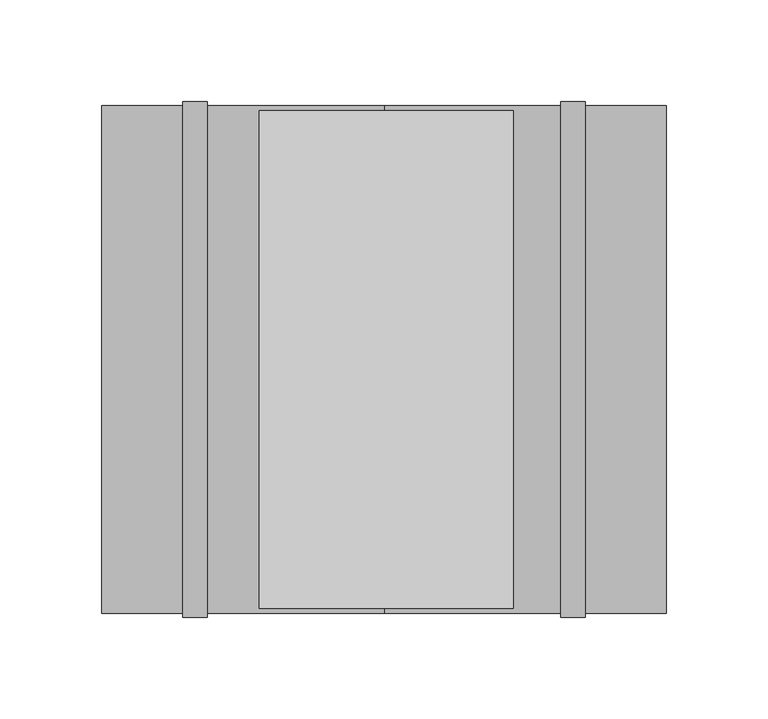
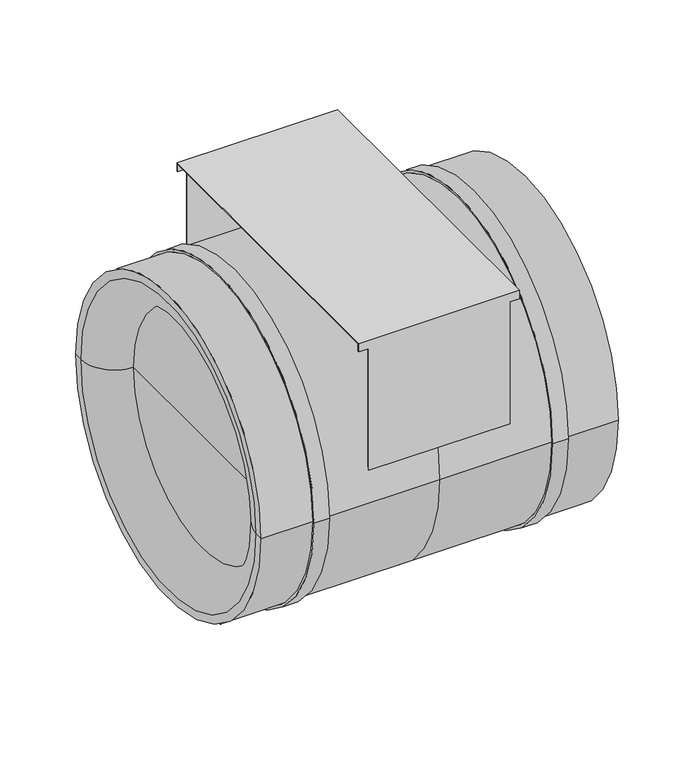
"""IFC4 building model written with IfcOpenShell, lengths in millimetres: unitary equipment geometry, VE-Wentylator-ParaForma-Harmann-JETTEC-Nawiewny : 250/2400F."""

from ifc_helpers import new_model, si_unit, point, frame, frame_2d, origin, place, context, project, spatial, polyline, circle_curve, ellipse_curve, trimmed, segment, composite_curve, outline, extrude, source, transform, mapped, element, save
from ifc_brep_helpers import plane_surface, cylinder_surface, revolved_surface, advanced_brep


def unitary_equipment_d3777f55(model_context):
    return source(origin(), model_context, "Body", "SolidModel", [
        extrude(outline(composite_curve([segment(polyline([(-45.5, -47.7), (-45.5, 47.7)]), True, "CONTINUOUS"), segment(trimmed(circle_curve(frame_2d((-40.5, 47.7)), 5.0), [point((-45.5, 47.7))], [point((-40.5, 52.7))], False, "CARTESIAN"), True, "CONTINUOUS"), segment(polyline([(-40.5, 52.7), (40.5, 52.7)]), True, "CONTINUOUS"), segment(trimmed(circle_curve(frame_2d((40.5, 47.7)), 5.0), [point((40.5, 52.7))], [point((45.5, 47.7))], False, "CARTESIAN"), True, "CONTINUOUS"), segment(polyline([(45.5, 47.7), (45.5, -47.7)]), True, "CONTINUOUS"), segment(trimmed(circle_curve(frame_2d((40.5, -47.7)), 5.0), [point((45.5, -47.7))], [point((40.5, -52.7))], False, "CARTESIAN"), True, "CONTINUOUS"), segment(polyline([(40.5, -52.7), (-40.5, -52.7)]), True, "CONTINUOUS"), segment(trimmed(circle_curve(frame_2d((-40.5, -47.7)), 5.0), [point((-40.5, -52.7))], [point((-45.5, -47.7))], False, "CARTESIAN"), True, "CONTINUOUS")], self_intersect=False)), frame((0.0, -55.0, 0.0), z_axis=(0.0, 1.0, 0.0), x_axis=(0.0, 0.0, 1.0)), (0.0, 0.0, 1.0), 45.0),
        advanced_brep(
        [(63.5, 122.5, 125.0), (63.5, 122.5, 131.8), (63.5, -122.5, 131.8), (63.5, -122.5, 125.0), (63.5, -121.7, 125.0), (63.5, -121.7, 131.0), (63.5, 121.7, 131.0), (63.5, 121.7, 125.0), (56.0, 121.7, 125.0), (56.0, 122.5, 125.0), (-61.5, 121.7, 131.0), (-61.5, 121.7, 125.0), (-54.0, 121.7, 125.0), (-54.0, 121.7, 28.5326129), (56.0, 121.7, 28.5326129), (-61.5, -121.7, 131.0), (56.0, -121.7, 125.0), (56.0, -121.7, 28.5326129), (-54.0, -121.7, 28.5326129), (-54.0, -121.7, 125.0), (-61.5, -121.7, 125.0), (56.0, -122.5, 125.0), (-61.5, -122.5, 131.8), (-61.5, -122.5, 125.0), (-54.0, -122.5, 125.0), (-54.0, -122.5, 24.8746859), (56.0, -122.5, 24.8746859), (-61.5, 122.5, 131.8), (56.0, 122.5, 24.8746859), (-54.0, 122.5, 24.8746859), (-54.0, 122.5, 125.0), (-61.5, 122.5, 125.0)],
        [
            (0, 1),
            (1, 2),
            (2, 3),
            (3, 4),
            (4, 5),
            (5, 6),
            (6, 7),
            (7, 0),
            (7, 8),
            (8, 9),
            (9, 0),
            (6, 10),
            (10, 11),
            (11, 12),
            (12, 13),
            (13, 14),
            (14, 8),
            (5, 15),
            (15, 10),
            (4, 16),
            (16, 17),
            (17, 18),
            (18, 19),
            (19, 20),
            (20, 15),
            (3, 21),
            (21, 16),
            (2, 22),
            (22, 23),
            (23, 24),
            (24, 25),
            (25, 26),
            (26, 21),
            (1, 27),
            (27, 22),
            (9, 28),
            (28, 29),
            (29, 30),
            (30, 31),
            (31, 27),
            (29, 13, circle_curve(frame((-54.0, 0.0, 0.0), z_axis=(1.0, 0.0, 0.0), x_axis=(0.0, 1.0, 0.0)), 125.0)),
            (12, 30),
            (18, 25, circle_curve(frame((-54.0, 0.0, 0.0), z_axis=(1.0, 0.0, 0.0), x_axis=(0.0, 1.0, 0.0)), 125.0)),
            (24, 19),
            (14, 28, circle_curve(frame((56.0, 0.0, 0.0), z_axis=(-1.0, 0.0, 0.0), x_axis=(0.0, 1.0, 0.0)), 125.0)),
            (26, 17, circle_curve(frame((56.0, 0.0, 0.0), z_axis=(-1.0, 0.0, 0.0), x_axis=(0.0, 1.0, 0.0)), 125.0)),
            (31, 11),
            (20, 23),
        ],
        [
            plane_surface(frame((63.5, 0.0, 0.0), z_axis=(1.0, 0.0, 0.0), x_axis=(0.0, 0.0, 1.0))),
            plane_surface(frame((56.0, 122.5, 125.0), z_axis=(0.0, 0.0, -1.0), x_axis=(1.0, 0.0, 0.0))),
            plane_surface(frame((56.0, 121.7, 125.0), z_axis=(0.0, -1.0, 0.0), x_axis=(1.0, 0.0, 0.0))),
            plane_surface(frame((56.0, -113.0382235, 131.0), z_axis=(0.0, 0.0, -1.0), x_axis=(1.0, 0.0, 0.0))),
            plane_surface(frame((56.0, -121.7, 131.0), z_axis=(0.0, 1.0, 0.0), x_axis=(1.0, 0.0, 0.0))),
            plane_surface(frame((56.0, -121.7, 125.0), z_axis=(0.0, 0.0, -1.0), x_axis=(1.0, 0.0, 0.0))),
            plane_surface(frame((56.0, -122.5, 125.0), z_axis=(0.0, -1.0, 0.0), x_axis=(1.0, 0.0, 0.0))),
            plane_surface(frame((56.0, 112.5, 131.8), z_axis=(0.0, 0.0, 1.0), x_axis=(1.0, 0.0, 0.0))),
            plane_surface(frame((56.0, 122.5, 131.8), z_axis=(0.0, 1.0, 0.0), x_axis=(1.0, 0.0, 0.0))),
            plane_surface(frame((-54.0, 0.0, 0.0), z_axis=(-1.0, 0.0, 0.0), x_axis=(0.0, 0.0, 1.0))),
            plane_surface(frame((56.0, 0.0, 0.0), z_axis=(1.0, 0.0, 0.0), x_axis=(0.0, 0.0, 1.0))),
            revolved_surface(polyline([(-54.0, 125.0, 0.0), (56.0, 125.0, 0.0)]), (-54.0, 0.0, 0.0), (-1.0, 0.0, 0.0)),
            plane_surface(frame((-61.5, 0.0, 0.0), z_axis=(-1.0, 0.0, 0.0), x_axis=(0.0, 0.0, 1.0))),
            plane_surface(frame((-61.5, 122.5, 125.0), z_axis=(0.0, 0.0, -1.0), x_axis=(1.0, 0.0, 0.0))),
            plane_surface(frame((-61.5, -121.7, 125.0), z_axis=(0.0, 0.0, -1.0), x_axis=(1.0, 0.0, 0.0))),
        ],
        [
            (0, [[1, 2, 3, 4, 5, 6, 7, 8]]),
            (1, [[-8, 9, 10, 11]]),
            (2, [[-7, 12, 13, 14, 15, 16, 17, -9]]),
            (3, [[-12, -6, 18, 19]]),
            (4, [[-18, -5, 20, 21, 22, 23, 24, 25]]),
            (5, [[-4, 26, 27, -20]]),
            (6, [[-3, 28, 29, 30, 31, 32, 33, -26]]),
            (7, [[-28, -2, 34, 35]]),
            (8, [[-34, -1, -11, 36, 37, 38, 39, 40]]),
            (9, [[41, -15, 42, -38]]),
            (9, [[43, -31, 44, -23]]),
            (10, [[45, -36, -10, -17]]),
            (10, [[46, -21, -27, -33]]),
            (11, [[-41, -37, -45, -16]]),
            (11, [[-43, -22, -46, -32]]),
            (12, [[47, -13, -19, -25, 48, -29, -35, -40]]),
            (13, [[-47, -39, -42, -14]]),
            (14, [[-48, -24, -44, -30]]),
        ],
    ),
        advanced_brep(
        [(-87.0, 125.0, 0.0), (0.0, 125.0, 0.0), (0.0, -125.0, 0.0), (-87.0, -125.0, 0.0), (-139.0, -125.0, 0.0), (-139.0, 125.0, 0.0), (-99.0, 125.0, 0.0), (-99.0, -125.0, 0.0), (-139.0, -118.5, 0.0), (-139.0, 118.5, 0.0), (-113.0, -92.5, 0.0), (-113.0, 92.5, 0.0), (-113.0, 0.0, 0.0), (139.0, -125.0, 0.0), (139.0, 125.0, 0.0), (139.0, 0.0, 0.0), (99.0, -125.0, 0.0), (99.0, 125.0, 0.0), (87.0, 125.0, 0.0), (87.0, -125.0, 0.0), (-87.0, -127.0, 0.0), (-87.0, 127.0, 0.0), (-99.0, -127.0, 0.0), (-99.0, 127.0, 0.0), (99.0, -127.0, 0.0), (99.0, 127.0, 0.0), (87.0, -127.0, 0.0), (87.0, 127.0, 0.0)],
        [
            (0, 1),
            (1, 2, circle_curve(frame((0.0, 0.0, 0.0), z_axis=(-1.0, 0.0, 0.0), x_axis=(0.0, 1.0, 0.0)), 125.0)),
            (2, 3),
            (3, 0, circle_curve(frame((-87.0, 0.0, 0.0), z_axis=(1.0, 0.0, 0.0), x_axis=(0.0, 1.0, 0.0)), 125.0)),
            (0, 3, circle_curve(frame((-87.0, 0.0, 0.0), z_axis=(1.0, 0.0, 0.0), x_axis=(0.0, 1.0, 0.0)), 125.0)),
            (2, 1, circle_curve(frame((0.0, 0.0, 0.0), z_axis=(-1.0, 0.0, 0.0), x_axis=(0.0, 1.0, 0.0)), 125.0)),
            (4, 5, circle_curve(frame((-139.0, 0.0, 0.0), z_axis=(1.0, 0.0, 0.0), x_axis=(0.0, 1.0, 0.0)), 125.0)),
            (5, 6),
            (6, 7, circle_curve(frame((-99.0, 0.0, 0.0), z_axis=(-1.0, 0.0, 0.0), x_axis=(0.0, 1.0, 0.0)), 125.0)),
            (7, 4),
            (5, 4, circle_curve(frame((-139.0, 0.0, 0.0), z_axis=(1.0, 0.0, 0.0), x_axis=(0.0, 1.0, 0.0)), 125.0)),
            (7, 6, circle_curve(frame((-99.0, 0.0, 0.0), z_axis=(-1.0, 0.0, 0.0), x_axis=(0.0, 1.0, 0.0)), 125.0)),
            (4, 8),
            (8, 9, circle_curve(frame((-139.0, 0.0, 0.0), z_axis=(1.0, 0.0, 0.0), x_axis=(0.0, 1.0, 0.0)), 118.5)),
            (9, 5),
            (9, 8, circle_curve(frame((-139.0, 0.0, 0.0), z_axis=(1.0, 0.0, 0.0), x_axis=(0.0, 1.0, 0.0)), 118.5)),
            (8, 10, circle_curve(frame((-113.0, -118.5, 0.0), z_axis=(0.0, 0.0, -1.0), x_axis=(1.0, 0.0, 0.0)), 26.0)),
            (10, 11, circle_curve(frame((-113.0, 0.0, 0.0), z_axis=(1.0, 0.0, 0.0), x_axis=(0.0, 1.0, 0.0)), 92.5)),
            (11, 9, circle_curve(frame((-113.0, 118.5, 0.0), z_axis=(0.0, 0.0, -1.0), x_axis=(1.0, 0.0, 0.0)), 26.0)),
            (11, 10, circle_curve(frame((-113.0, 0.0, 0.0), z_axis=(1.0, 0.0, 0.0), x_axis=(0.0, 1.0, 0.0)), 92.5)),
            (10, 12),
            (12, 11),
            (13, 14, circle_curve(frame((139.0, 0.0, 0.0), z_axis=(1.0, 0.0, 0.0), x_axis=(0.0, 1.0, 0.0)), 125.0)),
            (14, 15),
            (15, 13),
            (14, 13, circle_curve(frame((139.0, 0.0, 0.0), z_axis=(1.0, 0.0, 0.0), x_axis=(0.0, 1.0, 0.0)), 125.0)),
            (13, 16),
            (16, 17, circle_curve(frame((99.0, 0.0, 0.0), z_axis=(1.0, 0.0, 0.0), x_axis=(0.0, 1.0, 0.0)), 125.0)),
            (17, 14),
            (17, 16, circle_curve(frame((99.0, 0.0, 0.0), z_axis=(1.0, 0.0, 0.0), x_axis=(0.0, 1.0, 0.0)), 125.0)),
            (1, 18),
            (18, 19, circle_curve(frame((87.0, 0.0, 0.0), z_axis=(-1.0, 0.0, 0.0), x_axis=(0.0, 1.0, 0.0)), 125.0)),
            (19, 2),
            (19, 18, circle_curve(frame((87.0, 0.0, 0.0), z_axis=(-1.0, 0.0, 0.0), x_axis=(0.0, 1.0, 0.0)), 125.0)),
            (20, 21, circle_curve(frame((-87.0, 0.0, 0.0), z_axis=(1.0, 0.0, 0.0), x_axis=(0.0, 1.0, 0.0)), 127.0)),
            (21, 0),
            (3, 20),
            (21, 20, circle_curve(frame((-87.0, 0.0, 0.0), z_axis=(1.0, 0.0, 0.0), x_axis=(0.0, 1.0, 0.0)), 127.0)),
            (20, 22),
            (22, 23, circle_curve(frame((-99.0, 0.0, 0.0), z_axis=(1.0, 0.0, 0.0), x_axis=(0.0, 1.0, 0.0)), 127.0)),
            (23, 21),
            (23, 22, circle_curve(frame((-99.0, 0.0, 0.0), z_axis=(1.0, 0.0, 0.0), x_axis=(0.0, 1.0, 0.0)), 127.0)),
            (22, 7),
            (6, 23),
            (24, 25, circle_curve(frame((99.0, 0.0, 0.0), z_axis=(1.0, 0.0, 0.0), x_axis=(0.0, 1.0, 0.0)), 127.0)),
            (25, 17),
            (16, 24),
            (25, 24, circle_curve(frame((99.0, 0.0, 0.0), z_axis=(1.0, 0.0, 0.0), x_axis=(0.0, 1.0, 0.0)), 127.0)),
            (24, 26),
            (26, 27, circle_curve(frame((87.0, 0.0, 0.0), z_axis=(1.0, 0.0, 0.0), x_axis=(0.0, 1.0, 0.0)), 127.0)),
            (27, 25),
            (27, 26, circle_curve(frame((87.0, 0.0, 0.0), z_axis=(1.0, 0.0, 0.0), x_axis=(0.0, 1.0, 0.0)), 127.0)),
            (26, 19),
            (18, 27),
        ],
        [
            cylinder_surface(frame((-113.0, 0.0, 0.0), z_axis=(-1.0, 0.0, 0.0), x_axis=(0.0, 1.0, 0.0)), 125.0),
            plane_surface(frame((-139.0, 0.0, 0.0), z_axis=(-1.0, 0.0, 0.0), x_axis=(0.0, 1.0, 0.0))),
            revolved_surface(trimmed(ellipse_curve(frame((-113.0, 118.5, 0.0), z_axis=(0.0, 0.0, 1.0), x_axis=(1.0, 0.0, 0.0)), 26.0, 26.0), [point((-139.0, 118.5, 0.0))], [point((-113.0, 92.5, 0.0))], True, "CARTESIAN"), (-113.0, 0.0, 0.0), (-1.0, 0.0, 0.0)),
            plane_surface(frame((-113.0, 0.0, 0.0), z_axis=(-1.0, 0.0, 0.0), x_axis=(0.0, 1.0, 0.0))),
            plane_surface(frame((139.0, 0.0, 0.0), z_axis=(1.0, 0.0, 0.0), x_axis=(0.0, 1.0, 0.0))),
            cylinder_surface(frame((0.0, 0.0, 0.0), z_axis=(-1.0, 0.0, 0.0), x_axis=(0.0, 1.0, 0.0)), 125.0),
            plane_surface(frame((-87.0, 0.0, 0.0), z_axis=(1.0, 0.0, 0.0), x_axis=(0.0, 1.0, 0.0))),
            cylinder_surface(frame((-99.0, 0.0, 0.0), z_axis=(-1.0, 0.0, 0.0), x_axis=(0.0, 1.0, 0.0)), 127.0),
            plane_surface(frame((-99.0, 0.0, 0.0), z_axis=(-1.0, 0.0, 0.0), x_axis=(0.0, 1.0, 0.0))),
            plane_surface(frame((99.0, 0.0, 0.0), z_axis=(1.0, 0.0, 0.0), x_axis=(0.0, 1.0, 0.0))),
            plane_surface(frame((87.0, 0.0, 0.0), z_axis=(-1.0, 0.0, 0.0), x_axis=(0.0, 1.0, 0.0))),
        ],
        [
            (0, [[1, 2, 3, 4]]),
            (0, [[-1, 5, -3, 6]]),
            (0, [[7, 8, 9, 10]]),
            (0, [[-8, 11, -10, 12]]),
            (1, [[-7, 13, 14, 15]]),
            (1, [[-11, -15, 16, -13]]),
            (2, [[-14, 17, 18, 19]]),
            (2, [[-16, -19, 20, -17]]),
            (3, [[-18, 21, 22]]),
            (3, [[-20, -22, -21]]),
            (4, [[23, 24, 25]]),
            (4, [[-24, 26, -25]]),
            (5, [[-23, 27, 28, 29]]),
            (5, [[-26, -29, 30, -27]]),
            (5, [[31, 32, 33, -2]]),
            (5, [[-31, -6, -33, 34]]),
            (6, [[35, 36, -4, 37]]),
            (6, [[38, -37, -5, -36]]),
            (7, [[-35, 39, 40, 41]]),
            (7, [[-38, -41, 42, -39]]),
            (8, [[-40, 43, -9, 44]]),
            (8, [[-42, -44, -12, -43]]),
            (9, [[45, 46, -28, 47]]),
            (9, [[48, -47, -30, -46]]),
            (7, [[-45, 49, 50, 51]]),
            (7, [[-48, -51, 52, -49]]),
            (10, [[-50, 53, -32, 54]]),
            (10, [[-52, -54, -34, -53]]),
        ],
    ),
    ])


if __name__ == "__main__":
    model = new_model("IFC4")
    model_context = context("Model", 3, world=origin())
    ifc_project = project(units=[si_unit("LENGTHUNIT", "METRE", prefix="MILLI")], contexts=[model_context])
    site = spatial("IfcSite", under=ifc_project)
    building = spatial("IfcBuilding", under=site)
    placement = place(None, origin())
    unitary_equipment_shape = unitary_equipment_d3777f55(model_context)
    element("IfcUnitaryEquipment", 1, ObjectType="VE-Wentylator-ParaForma-Harmann-JETTEC-Nawiewny : 250/2400F", at=placement, inside=building, context=model_context, shape_type="MappedRepresentation", body=[
        mapped(unitary_equipment_shape, transform((0.0, 0.0, 0.0), x_axis=(1.0, 0.0, 0.0), y_axis=(0.0, 1.0, 0.0), z_axis=(0.0, 0.0, 1.0))),
    ])
    save(model, "model.ifc")
